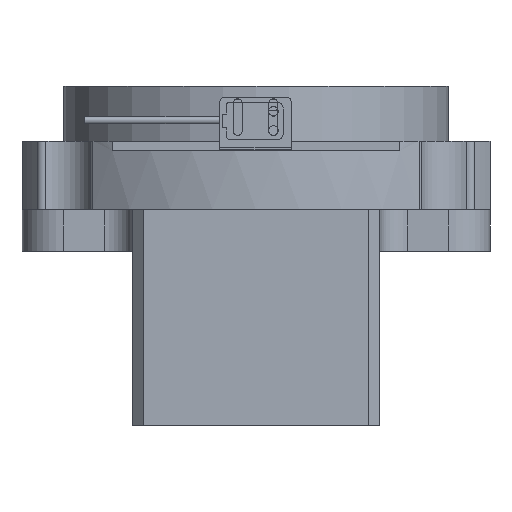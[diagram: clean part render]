
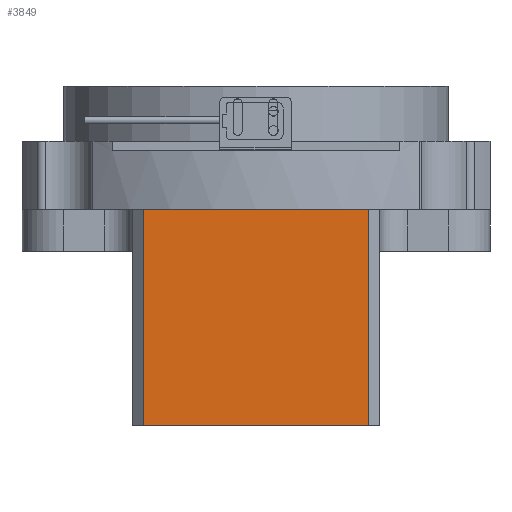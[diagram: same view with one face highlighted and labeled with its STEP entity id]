
A CAD part, front view. The second image highlights one B-rep face of the part: STEP entity #3849.
In plain terms, the highlighted planar face has unit normal (0, -1, 0).
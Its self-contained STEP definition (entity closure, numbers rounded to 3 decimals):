
#1472 = DIRECTION ( 'NONE',  ( 1., 0., 0. ) ) ;
#1917 = DIRECTION ( 'NONE',  ( 0., 1., 0. ) ) ;
#2005 = VERTEX_POINT ( 'NONE', #27791 ) ;
#3849 = ADVANCED_FACE ( 'NONE', ( #7707 ), #21745, .F. ) ;
#3989 = LINE ( 'NONE', #4541, #34326 ) ;
#4541 = CARTESIAN_POINT ( 'NONE',  ( -62.05, -108.493, 18. ) ) ;
#4720 = DIRECTION ( 'NONE',  ( 0., 0., -1. ) ) ;
#5569 = VERTEX_POINT ( 'NONE', #23978 ) ;
#7529 = CARTESIAN_POINT ( 'NONE',  ( -62.05, -108.493, 63. ) ) ;
#7646 = VERTEX_POINT ( 'NONE', #34876 ) ;
#7707 = FACE_OUTER_BOUND ( 'NONE', #24375, .T. ) ;
#8514 = VECTOR ( 'NONE', #15903, 1000. ) ;
#9920 = VECTOR ( 'NONE', #19145, 1000. ) ;
#9980 = CARTESIAN_POINT ( 'NONE',  ( 19.95, -108.493, -60.5 ) ) ;
#10161 = LINE ( 'NONE', #9980, #8514 ) ;
#13142 = LINE ( 'NONE', #30468, #22240 ) ;
#13283 = EDGE_CURVE ( 'NONE', #5569, #2005, #28277, .T. ) ;
#15903 = DIRECTION ( 'NONE',  ( -1., 0., 0. ) ) ;
#17172 = ORIENTED_EDGE ( 'NONE', *, *, #27219, .F. ) ;
#19145 = DIRECTION ( 'NONE',  ( 0., 0., -1. ) ) ;
#20908 = ORIENTED_EDGE ( 'NONE', *, *, #25229, .T. ) ;
#21442 = ORIENTED_EDGE ( 'NONE', *, *, #13283, .F. ) ;
#21745 = PLANE ( 'NONE',  #24469 ) ;
#22240 = VECTOR ( 'NONE', #4720, 1000. ) ;
#23978 = CARTESIAN_POINT ( 'NONE',  ( 19.95, -108.493, 18. ) ) ;
#24375 = EDGE_LOOP ( 'NONE', ( #17172, #20908, #24835, #21442 ) ) ;
#24460 = EDGE_CURVE ( 'NONE', #2005, #35549, #10161, .T. ) ;
#24469 = AXIS2_PLACEMENT_3D ( 'NONE', #7529, #1917, #1472 ) ;
#24835 = ORIENTED_EDGE ( 'NONE', *, *, #24460, .F. ) ;
#25229 = EDGE_CURVE ( 'NONE', #7646, #35549, #13142, .T. ) ;
#27219 = EDGE_CURVE ( 'NONE', #7646, #5569, #3989, .T. ) ;
#27791 = CARTESIAN_POINT ( 'NONE',  ( 19.95, -108.493, -60.5 ) ) ;
#28277 = LINE ( 'NONE', #29815, #9920 ) ;
#29815 = CARTESIAN_POINT ( 'NONE',  ( 19.95, -108.493, 63. ) ) ;
#30468 = CARTESIAN_POINT ( 'NONE',  ( -62.05, -108.493, 63. ) ) ;
#34326 = VECTOR ( 'NONE', #35521, 1000. ) ;
#34495 = CARTESIAN_POINT ( 'NONE',  ( -62.05, -108.493, -60.5 ) ) ;
#34876 = CARTESIAN_POINT ( 'NONE',  ( -62.05, -108.493, 18. ) ) ;
#35521 = DIRECTION ( 'NONE',  ( 1., 0., 0. ) ) ;
#35549 = VERTEX_POINT ( 'NONE', #34495 ) ;
